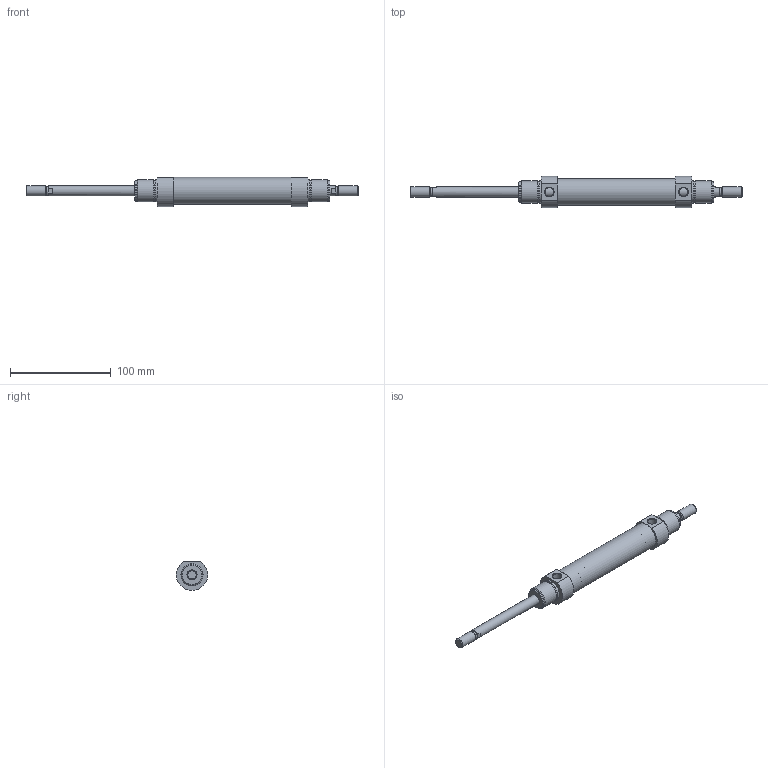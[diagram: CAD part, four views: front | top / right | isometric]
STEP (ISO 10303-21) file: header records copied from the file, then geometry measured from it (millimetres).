
FILE_DESCRIPTION( ( 'STEP AP203' ), '1' );
FILE_NAME( '//expscmdclustefs.cadenas.external/client_exchange/iodir/jobs/output/wkb68469502_no0/STEP/M101-025-0080-M__0__2_03.stp', ' ', ( ' ' ), ( ' ' ), 'PSStep 15.0.47', 'PARTsolutions', ' ' );
FILE_SCHEMA( ( 'CONFIG_CONTROL_DESIGN' ) );
Length unit declared in the file: millimetre
Products named in the file (3): M101-025-0080-M [0]; HI_M101-025-0080-M-[0]-z; HI_M101-025-0080-M-[0]-k
Assembly tree (2 placements, depth 2):
  M101-025-0080-M [0]
    HI_M101-025-0080-M-[0]-z
    HI_M101-025-0080-M-[0]-k
Bounding box: 329 x 31 x 28.79 mm (x, y, z)
Volume: 81170.6 mm3; surface area: 40759.5 mm2
Topology: 2 solids, 2 shells, 63 faces, 123 edges, 74 vertices
Faces by surface type: plane 28, cylinder 23, cone 10, torus 2
Full cylindrical faces by diameter (mm): 8.16 x2, 8.566 x2, 10 x6, 20.16 x4, 22 x4, 25 x2, 26.6 x1
Entity records: 1700 total; most frequent: CARTESIAN_POINT 390, DIRECTION 276, ORIENTED_EDGE 176, AXIS2_PLACEMENT_3D 124, EDGE_LOOP 112, EDGE_CURVE 88, FACE_OUTER_BOUND 86, VERTEX_POINT 72
